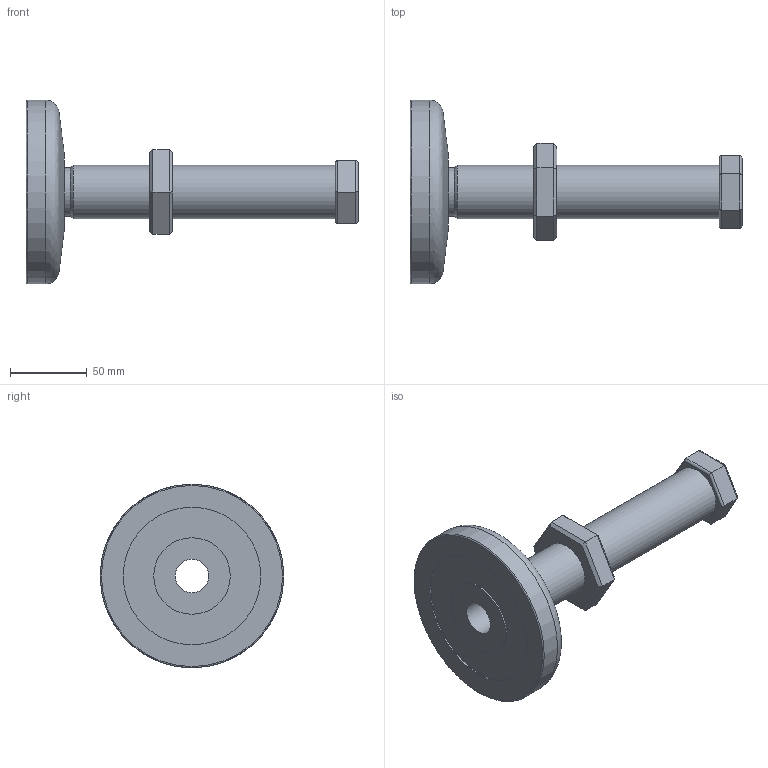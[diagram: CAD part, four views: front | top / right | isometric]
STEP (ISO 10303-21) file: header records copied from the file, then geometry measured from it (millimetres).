
FILE_DESCRIPTION(('STEP AP203'),'2;1');
FILE_NAME('12619F.stp','2016-12-07T10:30:48',(''),(''),'2008.1.107','THINKDESIGN','');
FILE_SCHEMA(('CONFIG_CONTROL_DESIGN'));
Length unit declared in the file: millimetre
Bounding box: 217 x 120 x 120 mm (x, y, z)
Volume: 384667.7 mm3; surface area: 75151.3 mm2
Topology: 3 solids, 3 shells, 63 faces, 154 edges, 102 vertices
Faces by surface type: bspline 22, plane 21, cylinder 20
Full cylindrical faces by diameter (mm): 22 x2, 32 x1, 33 x1, 35 x1, 50 x1, 90 x1, 120 x1
Entity records: 2922 total; most frequent: CARTESIAN_POINT 1287, ORIENTED_EDGE 304, DIRECTION 278, EDGE_CURVE 152, VERTEX_POINT 98, AXIS2_PLACEMENT_3D 95, VECTOR 88, LINE 88
